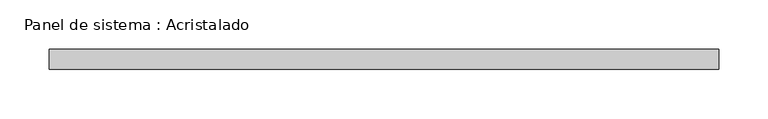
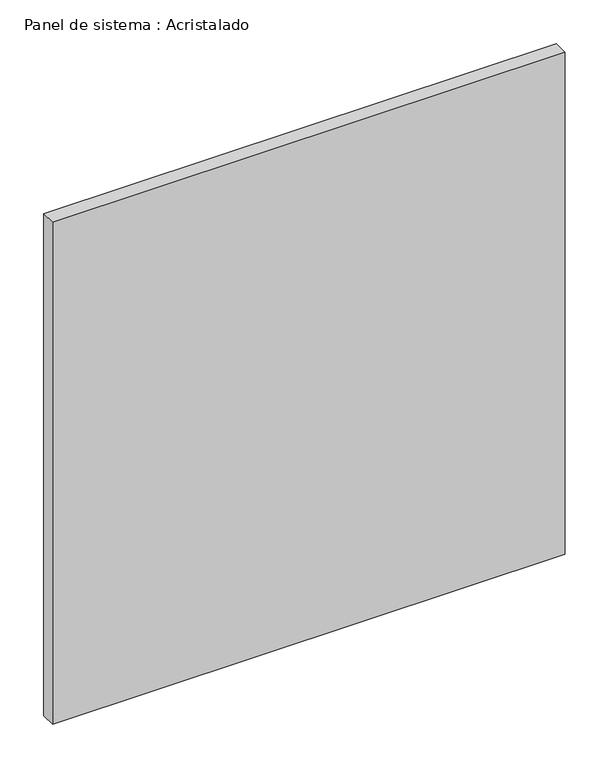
"""IFC4 building model written with IfcOpenShell, lengths in millimetres: plate geometry, Panel de sistema : Acristalado."""

from ifc_helpers import new_model, si_unit, origin, origin_with_axes, place, context, project, spatial, polyline, outline, extrude, source, transform, mapped, element, save


def panel_de_sistema_acristalado_da2b4c4a(model_context):
    return source(origin(), model_context, "Body", "SweptSolid", [
        extrude(outline(polyline([(338.3333332, -10.0), (-338.3333332, -10.0), (-338.3333332, 10.0), (338.3333332, 10.0), (338.3333332, -10.0)])), origin_with_axes(), (0.0, 0.0, 1.0), 700.0),
    ])


if __name__ == "__main__":
    model = new_model("IFC4")
    model_context = context("Model", 3, world=origin())
    ifc_project = project(units=[si_unit("LENGTHUNIT", "METRE", prefix="MILLI")], contexts=[model_context])
    site = spatial("IfcSite", under=ifc_project)
    building = spatial("IfcBuilding", under=site)
    placement = place(None, origin())
    panel_de_sistema_acristalado_shape = panel_de_sistema_acristalado_da2b4c4a(model_context)
    element("IfcPlate", 1, ObjectType="Panel de sistema : Acristalado", at=placement, inside=building, context=model_context, shape_type="MappedRepresentation", body=[
        mapped(panel_de_sistema_acristalado_shape, transform((0.0, 0.0, 0.0), x_axis=(1.0, 0.0, 0.0), y_axis=(0.0, 1.0, 0.0), z_axis=(0.0, 0.0, 1.0))),
    ])
    save(model, "model.ifc")
